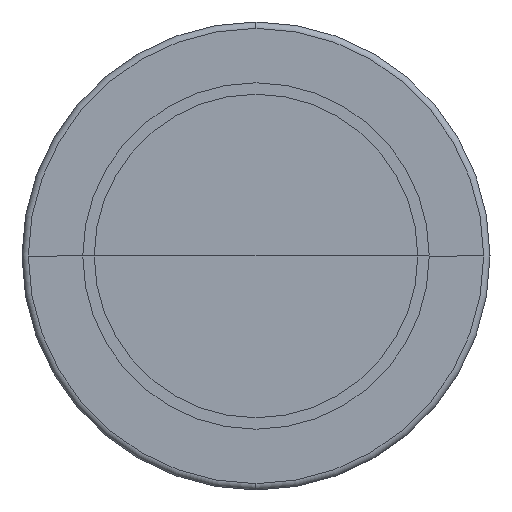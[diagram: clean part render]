
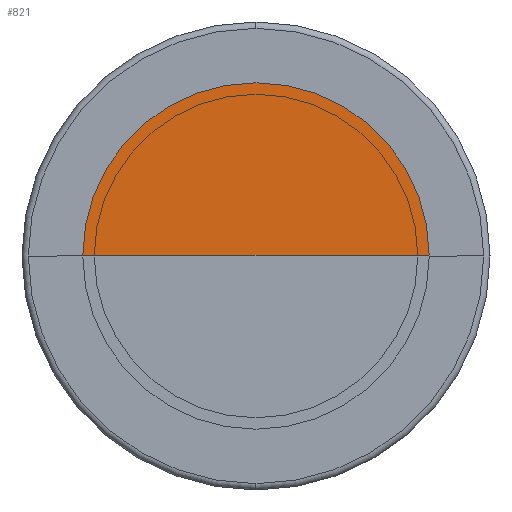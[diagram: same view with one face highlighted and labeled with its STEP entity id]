
A CAD part, left-side view. The second image highlights one B-rep face of the part: STEP entity #821.
In plain terms, the highlighted planar face has unit normal (-1, 0, 0).
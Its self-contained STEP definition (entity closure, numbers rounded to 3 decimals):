
#33 = AXIS2_PLACEMENT_3D ( 'NONE', #342, #417, #434 ) ;
#45 = DIRECTION ( 'NONE',  ( -1., 0., 0. ) ) ;
#49 = CARTESIAN_POINT ( 'NONE',  ( 0., -34.1, 0. ) ) ;
#60 = EDGE_LOOP ( 'NONE', ( #1065, #485, #799 ) ) ;
#89 = AXIS2_PLACEMENT_3D ( 'NONE', #783, #684, #692 ) ;
#112 = DIRECTION ( 'NONE',  ( 0., 1., 0. ) ) ;
#122 = DIRECTION ( 'NONE',  ( 0., -1., 0. ) ) ;
#141 = VERTEX_POINT ( 'NONE', #182 ) ;
#182 = CARTESIAN_POINT ( 'NONE',  ( 0., 34.1, 0. ) ) ;
#295 = VERTEX_POINT ( 'NONE', #882 ) ;
#328 = VECTOR ( 'NONE', #112, 1000. ) ;
#337 = FACE_OUTER_BOUND ( 'NONE', #60, .T. ) ;
#338 = EDGE_CURVE ( 'NONE', #484, #295, #657, .T. ) ;
#342 = CARTESIAN_POINT ( 'NONE',  ( 0., 0., 0. ) ) ;
#417 = DIRECTION ( 'NONE',  ( 1., 0., 0. ) ) ;
#423 = EDGE_CURVE ( 'NONE', #484, #141, #608, .T. ) ;
#434 = DIRECTION ( 'NONE',  ( 0., -1., 0. ) ) ;
#484 = VERTEX_POINT ( 'NONE', #49 ) ;
#485 = ORIENTED_EDGE ( 'NONE', *, *, #522, .T. ) ;
#522 = EDGE_CURVE ( 'NONE', #295, #141, #878, .T. ) ;
#608 = LINE ( 'NONE', #935, #328 ) ;
#657 = CIRCLE ( 'NONE', #89, 34.1 ) ;
#684 = DIRECTION ( 'NONE',  ( -1., 0., 0. ) ) ;
#692 = DIRECTION ( 'NONE',  ( 0., -1., 0. ) ) ;
#771 = CARTESIAN_POINT ( 'NONE',  ( 0., 0., 0. ) ) ;
#783 = CARTESIAN_POINT ( 'NONE',  ( 0., 0., 0. ) ) ;
#799 = ORIENTED_EDGE ( 'NONE', *, *, #423, .F. ) ;
#821 = ADVANCED_FACE ( 'NONE', ( #337 ), #844, .F. ) ;
#844 = PLANE ( 'NONE',  #33 ) ;
#878 = CIRCLE ( 'NONE', #915, 34.1 ) ;
#882 = CARTESIAN_POINT ( 'NONE',  ( 0., 32.431, 10.537 ) ) ;
#915 = AXIS2_PLACEMENT_3D ( 'NONE', #771, #45, #122 ) ;
#935 = CARTESIAN_POINT ( 'NONE',  ( 0., -34.1, 0. ) ) ;
#1065 = ORIENTED_EDGE ( 'NONE', *, *, #338, .T. ) ;
